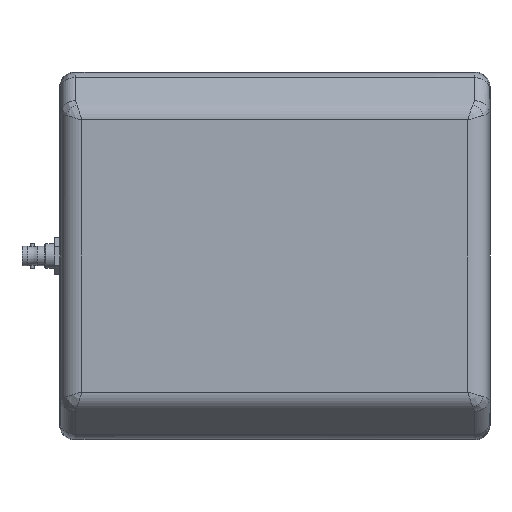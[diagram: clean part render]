
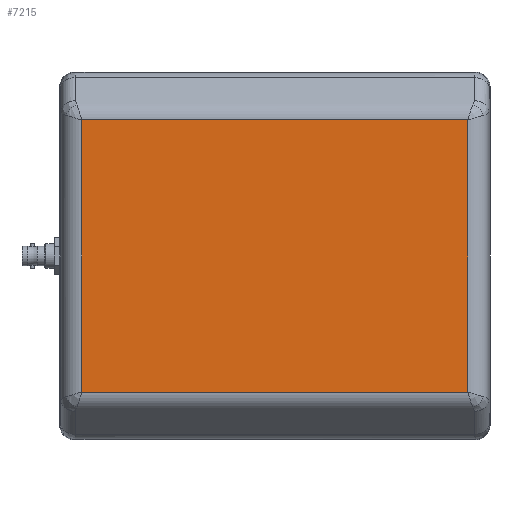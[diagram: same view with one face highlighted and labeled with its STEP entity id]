
A CAD part, front view. The second image highlights one B-rep face of the part: STEP entity #7215.
In plain terms, the highlighted planar face has unit normal (0, -1, 0).
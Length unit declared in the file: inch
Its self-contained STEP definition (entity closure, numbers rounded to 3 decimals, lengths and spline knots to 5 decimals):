
#1226=CARTESIAN_POINT('',(7.71231,0.,
-6.06165));
#1245=CARTESIAN_POINT('',(7.71232,0.,
-0.90684));
#1261=DIRECTION('',(0.,0.,1.));
#1262=VECTOR('',#1261,5.15481);
#1263=CARTESIAN_POINT('',(7.71231,0.,
-6.06165));
#1264=LINE('',#1263,#1262);
#1265=DIRECTION('',(1.,0.,0.));
#1266=VECTOR('',#1265,7.3144);
#1267=CARTESIAN_POINT('',(0.39791,0.,
-6.06167));
#1268=LINE('',#1267,#1266);
#1269=DIRECTION('',(0.,0.,-1.));
#1270=VECTOR('',#1269,5.15482);
#1271=CARTESIAN_POINT('',(0.39793,0.,
-0.90685));
#1272=LINE('',#1271,#1270);
#1273=DIRECTION('',(-1.,0.,0.));
#1274=VECTOR('',#1273,7.31439);
#1275=CARTESIAN_POINT('',(7.71232,0.,
-0.90684));
#1276=LINE('',#1275,#1274);
#1291=CARTESIAN_POINT('',(0.39791,0.,
-6.06167));
#1342=CARTESIAN_POINT('',(0.39793,0.,
-0.90685));
#5034=VERTEX_POINT('',#1245);
#5043=VERTEX_POINT('',#1342);
#5050=VERTEX_POINT('',#1226);
#5056=VERTEX_POINT('',#1291);
#7202=CARTESIAN_POINT('',(4.05512,0.,-3.48425));
#7203=DIRECTION('',(0.,1.,0.));
#7204=DIRECTION('',(1.,0.,0.));
#7205=AXIS2_PLACEMENT_3D('',#7202,#7203,#7204);
#7206=PLANE('',#7205);
#7207=ORIENTED_EDGE('',*,*,#7118,.F.);
#7209=ORIENTED_EDGE('',*,*,#7208,.F.);
#7211=ORIENTED_EDGE('',*,*,#7210,.F.);
#7212=ORIENTED_EDGE('',*,*,#7187,.F.);
#7213=EDGE_LOOP('',(#7207,#7209,#7211,#7212));
#7214=FACE_OUTER_BOUND('',#7213,.F.);
#7215=ADVANCED_FACE('',(#7214),#7206,.F.);
#7118=EDGE_CURVE('',#5050,#5034,#1264,.T.);
#7187=EDGE_CURVE('',#5034,#5043,#1276,.T.);
#7208=EDGE_CURVE('',#5056,#5050,#1268,.T.);
#7210=EDGE_CURVE('',#5043,#5056,#1272,.T.);
